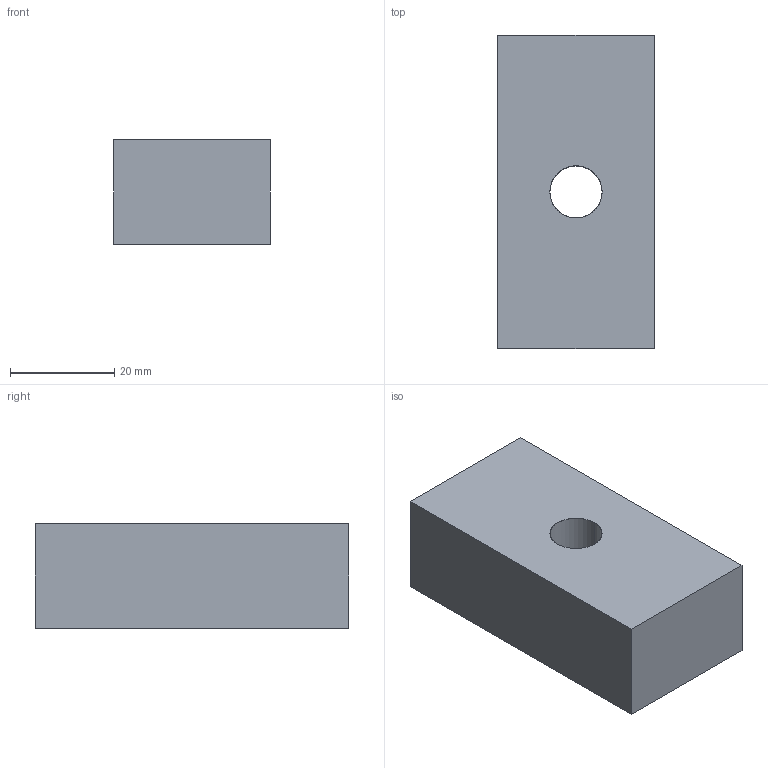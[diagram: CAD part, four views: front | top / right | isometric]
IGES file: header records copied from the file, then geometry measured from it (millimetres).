
Start section: SolidWorks IGES file using analytic representation for surfaces
Global section: file name: C:\Users\Santus\Desktop\Lastra_Foro_ElevatoSpessore.IGS; native system: SolidWorks 2016; preprocessor: SolidWorks 2016; author: Santus; date: 171127.154042; units: millimetre
Bounding box: 30 x 60 x 20 mm (x, y, z)
Surface area: 7671.2 mm2 (no closed solid volume)
Topology: 0 solids, 0 shells, 8 faces, 96 edges, 96 vertices
Faces by surface type: bspline 6, revolution 2
